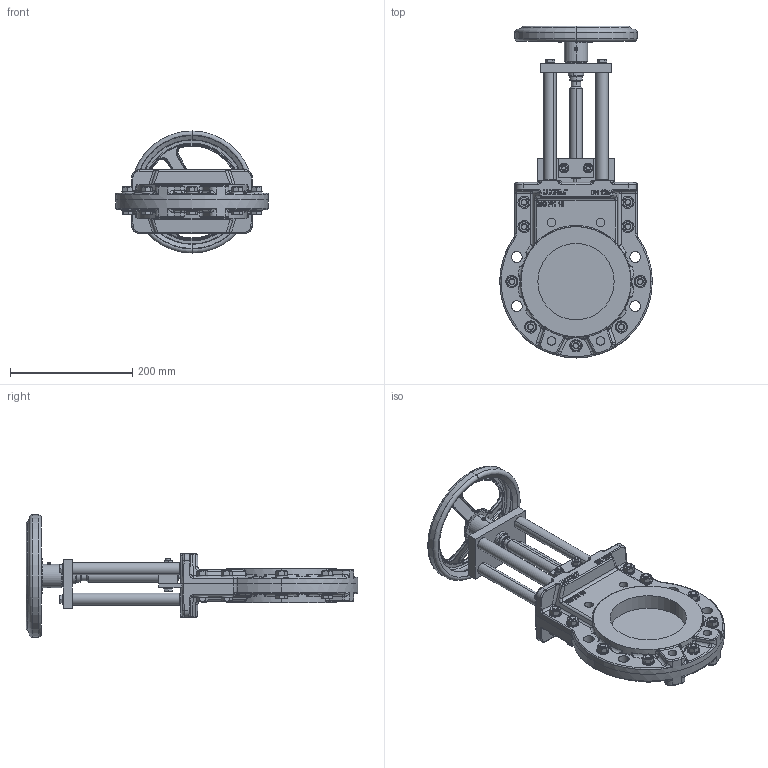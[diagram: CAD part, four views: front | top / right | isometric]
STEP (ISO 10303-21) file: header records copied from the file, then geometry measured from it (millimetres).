
FILE_DESCRIPTION (( 'STEP AP214' ), '1' );
FILE_NAME ('MGA DN 0125 PN16 (DH 300).STEP', '2015-09-23T08:03:41', ( 'admin' ), ( 'Hewlett-Packard Company' ), 'SwSTEP 2.0', 'SolidWorks 2013', '' );
FILE_SCHEMA (( 'AUTOMOTIVE_DESIGN' ));
Length unit declared in the file: millimetre
Products named in the file (1): MGA DN 0125 PN16 (DH 300)
Bounding box: 250 x 543.5 x 200 mm (x, y, z)
Volume: 2928458.8 mm3; surface area: 472618.4 mm2
Topology: 58 solids, 67 shells, 2296 faces, 5445 edges, 3229 vertices
Faces by surface type: plane 759, cylinder 538, cone 413, bspline 384, torus 198, sphere 4
Entity records: 107983 total; most frequent: CARTESIAN_POINT 32358, ORIENTED_EDGE 10634, DIRECTION 9908, EDGE_CURVE 5317, AXIS2_PLACEMENT_3D 3945, VERTEX_POINT 3229, EDGE_LOOP 2508, UNCERTAINTY_MEASURE_WITH_UNIT 2356
